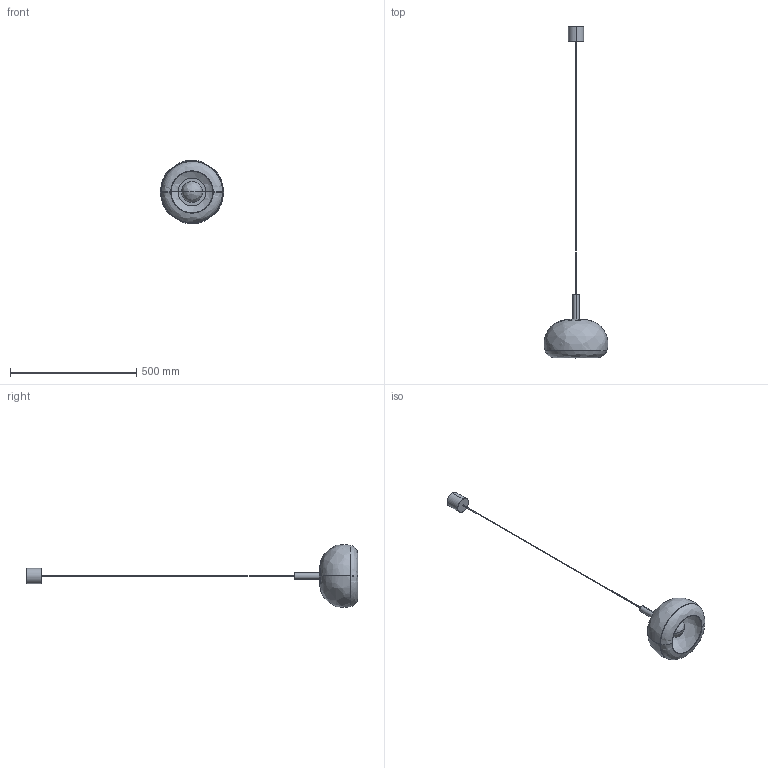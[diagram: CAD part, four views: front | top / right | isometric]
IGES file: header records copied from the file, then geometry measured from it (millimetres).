
Start section: SolidWorks IGES file using analytic representation for surfaces
Global section: file name: C:\Users\Agustin\Desktop\ARNOLD\SEPT 2025\2D-3D DEFINITIVO ONEDRIVE\2D-3D CLOUD_C1345\CLOUD_C1345_S.IGS; native system: SolidWorks 2018; preprocessor: SolidWorks 2018; author: Agustin; date: 250905.105635; units: millimetre
Bounding box: 251.8 x 1312.19 x 247.36 mm (x, y, z)
Surface area: 364615.3 mm2 (no closed solid volume)
Topology: 0 solids, 0 shells, 41 faces, 880 edges, 878 vertices
Faces by surface type: bspline 27, revolution 14
